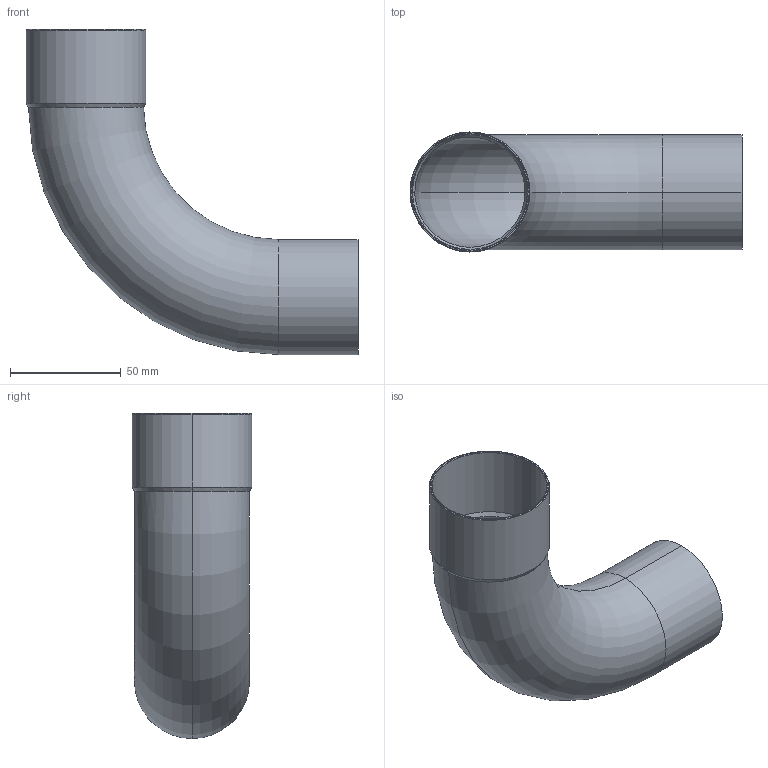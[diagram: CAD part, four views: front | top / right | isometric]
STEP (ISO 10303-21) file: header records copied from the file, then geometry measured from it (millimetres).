
FILE_DESCRIPTION((''),'2;1');
FILE_NAME('P:\Bouwmaten\z-maattekeningen 3D\5000\5001a\15001a52.stp','2005-10-04T14:53:00',('Kris'),(''),'Autodesk Inventor 8','Autodesk Inventor 8','');
FILE_SCHEMA(('AUTOMOTIVE_DESIGN { 1 0 10303 214 1 1 1 1 }'));
Length unit declared in the file: millimetre
Products named in the file (1): 15001a52
Bounding box: 150.1 x 54.2 x 147 mm (x, y, z)
Volume: 36648.1 mm3; surface area: 66960.9 mm2
Topology: 1 solids, 1 shells, 22 faces, 46 edges, 26 vertices
Faces by surface type: cone 8, cylinder 8, torus 4, plane 2
Entity records: 679 total; most frequent: CARTESIAN_POINT 171, DIRECTION 114, ORIENTED_EDGE 92, AXIS2_PLACEMENT_3D 49, EDGE_CURVE 46, VERTEX_POINT 26, CIRCLE 26, EDGE_LOOP 24
